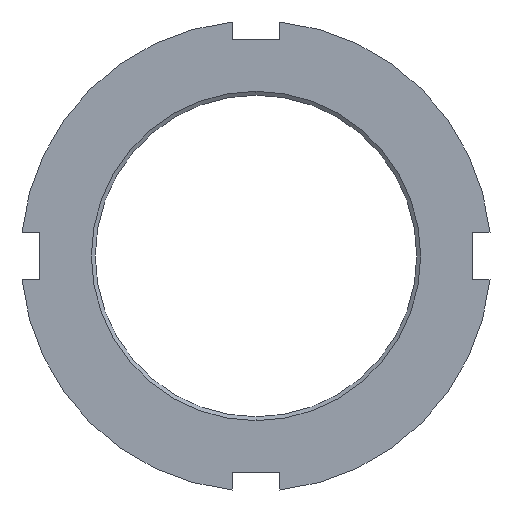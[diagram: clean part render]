
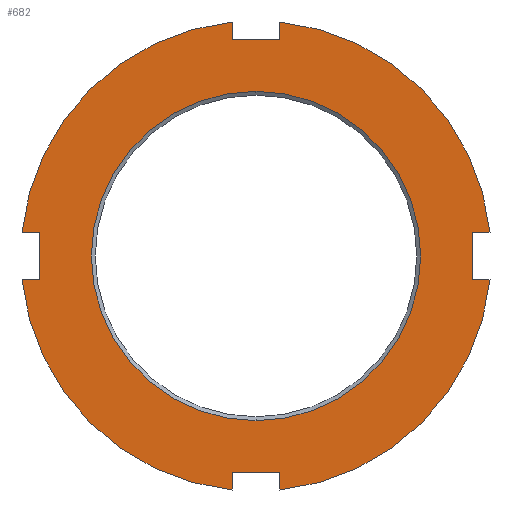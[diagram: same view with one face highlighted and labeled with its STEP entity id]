
A CAD part, front view. The second image highlights one B-rep face of the part: STEP entity #682.
In plain terms, the highlighted planar face has unit normal (0, -1, 0).
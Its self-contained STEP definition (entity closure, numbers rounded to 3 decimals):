
#247=CARTESIAN_POINT('POINT25',(-46.,-14.,-5.));
#248=VERTEX_POINT('VERTEX25',#247);
#255=CARTESIAN_POINT('POINT26',(-46.,-14.,5.));
#256=VERTEX_POINT('VERTEX26',#255);
#257=CARTESIAN_POINT('POS27',(-46.,-14.,-18.75));
#258=DIRECTION('DIR36',(0.,0.,-1.));
#259=VECTOR('VEC18',#258,1.);
#260=LINE('STRAIGHT18',#257,#259);
#261=EDGE_CURVE('EDGE30',#256,#248,#260,.T.);
#279=CARTESIAN_POINT('POINT27',(-49.747,-14.,
   5.019));
#280=VERTEX_POINT('VERTEX27',#279);
#281=CARTESIAN_POINT('POS30',(-24.854,-14.,
   4.893));
#282=DIRECTION('DIR40',(1.,0.,
   -0.005));
#283=VECTOR('VEC20',#282,1.);
#284=LINE('STRAIGHT20',#281,#283);
#285=EDGE_CURVE('EDGE32',#280,#256,#284,.T.);
#302=CARTESIAN_POINT('POINT28',(-5.019,-14.,
   49.747));
#303=VERTEX_POINT('VERTEX28',#302);
#304=CARTESIAN_POINT('POS33',(0.,-14.,0.));
#305=DIRECTION('DIR44',(0.,1.,0.));
#306=DIRECTION('DIR45',(0.,0.,-1.));
#307=AXIS2_PLACEMENT_3D('AXIS12',#304,#305,#306);
#308=CIRCLE('ELLIPSE6',#307,50.);
#309=EDGE_CURVE('EDGE34',#280,#303,#308,.T.);
#328=CARTESIAN_POINT('POINT29',(-5.,-14.,46.));
#329=VERTEX_POINT('VERTEX29',#328);
#330=CARTESIAN_POINT('POS36',(-4.776,-14.,
   1.738));
#331=DIRECTION('DIR49',(-0.005,0.,
   1.));
#332=VECTOR('VEC23',#331,1.);
#333=LINE('STRAIGHT23',#330,#332);
#334=EDGE_CURVE('EDGE36',#329,#303,#333,.T.);
#352=CARTESIAN_POINT('POINT30',(5.,-14.,46.));
#353=VERTEX_POINT('VERTEX30',#352);
#354=CARTESIAN_POINT('POS39',(2.5,-14.,46.));
#355=DIRECTION('DIR53',(-1.,0.,0.));
#356=VECTOR('VEC25',#355,1.);
#357=LINE('STRAIGHT25',#354,#356);
#358=EDGE_CURVE('EDGE38',#353,#329,#357,.T.);
#376=CARTESIAN_POINT('POINT31',(5.019,-14.,
   49.747));
#377=VERTEX_POINT('VERTEX31',#376);
#378=CARTESIAN_POINT('POS42',(4.786,-14.,
   3.713));
#379=DIRECTION('DIR57',(-0.005,0.,
   -1.));
#380=VECTOR('VEC27',#379,1.);
#381=LINE('STRAIGHT27',#378,#380);
#382=EDGE_CURVE('EDGE40',#377,#353,#381,.T.);
#398=CARTESIAN_POINT('POINT32',(49.747,-14.,
   5.019));
#399=VERTEX_POINT('VERTEX32',#398);
#408=EDGE_CURVE('EDGE43',#377,#399,#308,.T.);
#415=CARTESIAN_POINT('POINT33',(46.,-14.,5.));
#416=VERTEX_POINT('VERTEX33',#415);
#417=CARTESIAN_POINT('POS46',(22.88,-14.,
   4.883));
#418=DIRECTION('DIR62',(1.,0.,
   0.005));
#419=VECTOR('VEC30',#418,1.);
#420=LINE('STRAIGHT30',#417,#419);
#421=EDGE_CURVE('EDGE44',#416,#399,#420,.T.);
#439=CARTESIAN_POINT('POINT34',(46.,-14.,-5.));
#440=VERTEX_POINT('VERTEX34',#439);
#441=CARTESIAN_POINT('POS49',(46.,-14.,-23.75));
#442=DIRECTION('DIR66',(0.,0.,1.));
#443=VECTOR('VEC32',#442,1.);
#444=LINE('STRAIGHT32',#441,#443);
#445=EDGE_CURVE('EDGE46',#440,#416,#444,.T.);
#463=CARTESIAN_POINT('POINT35',(49.747,-14.,
   -5.019));
#464=VERTEX_POINT('VERTEX35',#463);
#465=CARTESIAN_POINT('POS52',(25.07,-14.,
   -4.894));
#466=DIRECTION('DIR70',(-1.,0.,
   0.005));
#467=VECTOR('VEC34',#466,1.);
#468=LINE('STRAIGHT34',#465,#467);
#469=EDGE_CURVE('EDGE48',#464,#440,#468,.T.);
#485=CARTESIAN_POINT('POINT36',(5.019,-14.,
   -49.747));
#486=VERTEX_POINT('VERTEX36',#485);
#495=EDGE_CURVE('EDGE51',#464,#486,#308,.T.);
#502=CARTESIAN_POINT('POINT37',(5.,-14.,-46.));
#503=VERTEX_POINT('VERTEX37',#502);
#504=CARTESIAN_POINT('POS56',(4.991,-14.,
   -44.237));
#505=DIRECTION('DIR75',(0.005,0.,
   -1.));
#506=VECTOR('VEC37',#505,1.);
#507=LINE('STRAIGHT37',#504,#506);
#508=EDGE_CURVE('EDGE52',#503,#486,#507,.T.);
#526=CARTESIAN_POINT('POINT38',(-5.,-14.,-46.));
#527=VERTEX_POINT('VERTEX38',#526);
#528=CARTESIAN_POINT('POS59',(-2.5,-14.,-46.));
#529=DIRECTION('DIR79',(1.,0.,0.));
#530=VECTOR('VEC39',#529,1.);
#531=LINE('STRAIGHT39',#528,#530);
#532=EDGE_CURVE('EDGE54',#527,#503,#531,.T.);
#550=CARTESIAN_POINT('POINT39',(-5.019,-14.,
   -49.747));
#551=VERTEX_POINT('VERTEX39',#550);
#552=CARTESIAN_POINT('POS62',(-5.001,-14.,
   -46.212));
#553=DIRECTION('DIR83',(0.005,0.,
   1.));
#554=VECTOR('VEC41',#553,1.);
#555=LINE('STRAIGHT41',#552,#554);
#556=EDGE_CURVE('EDGE56',#551,#527,#555,.T.);
#572=CARTESIAN_POINT('POINT40',(-49.747,-14.,
   -5.019));
#573=VERTEX_POINT('VERTEX40',#572);
#582=EDGE_CURVE('EDGE59',#551,#573,#308,.T.);
#589=CARTESIAN_POINT('POS66',(-23.096,-14.,
   -4.884));
#590=DIRECTION('DIR88',(-1.,0.,
   -0.005));
#591=VECTOR('VEC44',#590,1.);
#592=LINE('STRAIGHT44',#589,#591);
#593=EDGE_CURVE('EDGE60',#248,#573,#592,.T.);
#644=ORIENTED_EDGE('COEDGE111',*,*,#593,.T.);
#645=ORIENTED_EDGE('COEDGE112',*,*,#582,.F.);
#646=ORIENTED_EDGE('COEDGE113',*,*,#556,.T.);
#647=ORIENTED_EDGE('COEDGE114',*,*,#532,.T.);
#648=ORIENTED_EDGE('COEDGE115',*,*,#508,.T.);
#649=ORIENTED_EDGE('COEDGE116',*,*,#495,.F.);
#650=ORIENTED_EDGE('COEDGE117',*,*,#469,.T.);
#651=ORIENTED_EDGE('COEDGE118',*,*,#445,.T.);
#652=ORIENTED_EDGE('COEDGE119',*,*,#421,.T.);
#653=ORIENTED_EDGE('COEDGE120',*,*,#408,.F.);
#654=ORIENTED_EDGE('COEDGE121',*,*,#382,.T.);
#655=ORIENTED_EDGE('COEDGE122',*,*,#358,.T.);
#656=ORIENTED_EDGE('COEDGE123',*,*,#334,.T.);
#657=ORIENTED_EDGE('COEDGE124',*,*,#309,.F.);
#658=ORIENTED_EDGE('COEDGE125',*,*,#285,.T.);
#659=ORIENTED_EDGE('COEDGE126',*,*,#261,.T.);
#660=EDGE_LOOP('NONE',(#644,#645,#646,#647,#648,#649,#650,#651,#652,#653
   ,#654,#655,#656,#657,#658,#659));
#661=FACE_BOUND('LOOP1',#660,.T.);
#662=CARTESIAN_POINT('POINT43',(0.,-14.,-35.));
#663=VERTEX_POINT('VERTEX43',#662);
#664=CARTESIAN_POINT('POINT44',(0.,-14.,
   35.));
#665=VERTEX_POINT('VERTEX44',#664);
#666=CARTESIAN_POINT('POS72',(0.,-14.,0.));
#667=DIRECTION('DIR97',(0.,1.,0.));
#668=DIRECTION('DIR98',(0.,0.,-1.));
#669=AXIS2_PLACEMENT_3D('AXIS26',#666,#667,#668);
#670=CIRCLE('ELLIPSE8',#669,35.);
#671=EDGE_CURVE('EDGE65',#663,#665,#670,.T.);
#672=ORIENTED_EDGE('COEDGE127',*,*,#671,.T.);
#673=EDGE_CURVE('EDGE66',#665,#663,#670,.T.);
#674=ORIENTED_EDGE('COEDGE128',*,*,#673,.T.);
#675=EDGE_LOOP('NONE',(#672,#674));
#676=FACE_BOUND('LOOP1',#675,.T.);
#677=CARTESIAN_POINT('POS73',(0.,-14.,-42.5));
#678=DIRECTION('DIR99',(0.,-1.,0.));
#679=DIRECTION('DIR100',(1.,0.,0.));
#680=AXIS2_PLACEMENT_3D('AXIS27',#677,#678,#679);
#681=PLANE('PLANE15',#680);
#682=ADVANCED_FACE('FACE25',(#661,#676),#681,.T.);
